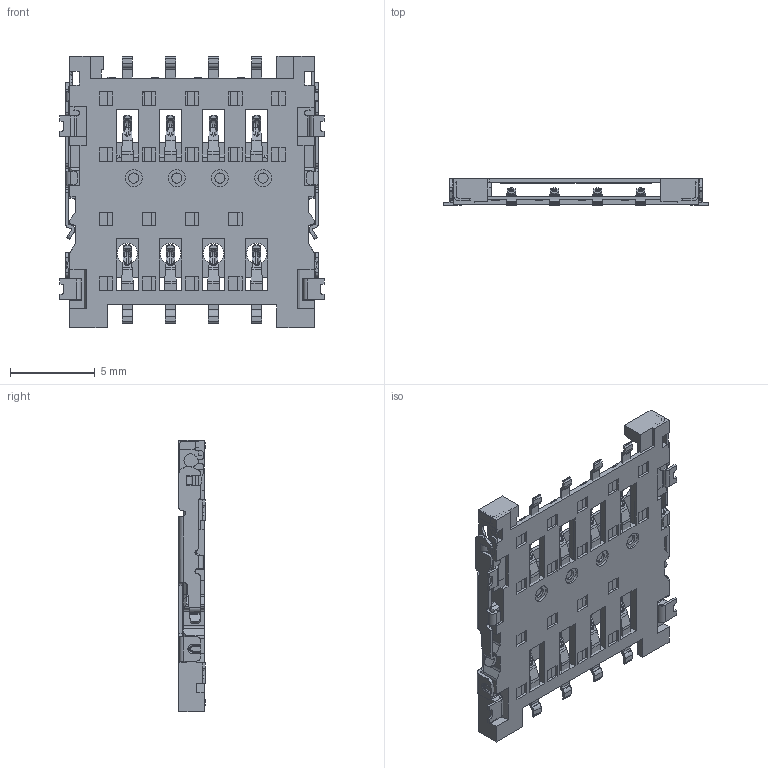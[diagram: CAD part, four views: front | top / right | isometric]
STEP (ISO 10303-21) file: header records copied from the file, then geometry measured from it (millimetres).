
FILE_DESCRIPTION((''),'2;1');
FILE_NAME('MICRO-SIM_1050821AR002_ASM','2018-09-01T',('Administrator'),(''),'PRO/ENGINEER BY PARAMETRIC TECHNOLOGY CORPORATION, 2010280','PRO/ENGINEER BY PARAMETRIC TECHNOLOGY CORPORATION, 2010280','');
FILE_SCHEMA(('CONFIG_CONTROL_DESIGN'));
Products named in the file (22): P8; P2; MSBR_1_2; MSBR_1_2_1; LAYER_2_1_ASM; MSBR-608460; LAYER_1_ASM; MSBR-597430; LAYER_ASM; _X2_63A55730811A_X0__1_ASM; P1; P3; P6; P4; P7; P5; TERMINAL_ASM; HOUSING_1_1; MOLDING_ASM; SHELL-NEW_1_1_1; ASS_ASM; MICRO-SIM_1050821AR002_ASM
Assembly tree (21 placements, depth 7):
  MICRO-SIM_1050821AR002_ASM
    ASS_ASM
      MOLDING_ASM
        TERMINAL_ASM
          P8
          P2
          _X2_63A55730811A_X0__1_ASM
            LAYER_2_1_ASM
              MSBR_1_2
              MSBR_1_2_1
            LAYER_1_ASM
              MSBR-608460
            LAYER_ASM
              MSBR-597430
          P1
          P3
          P6
          P4
          P7
          P5
        HOUSING_1_1
      SHELL-NEW_1_1_1
Bounding box: 15.6 x 1.55 x 16 mm (x, y, z)
Volume: 130.6 mm3; surface area: 982.5 mm2
Topology: 14 solids, 14 shells, 2158 faces, 5686 edges, 3614 vertices
Faces by surface type: plane 1224, cylinder 600, torus 130, bspline 114, cone 90
Entity records: 73703 total; most frequent: CARTESIAN_POINT 19457, ORIENTED_EDGE 11372, DIRECTION 11128, EDGE_CURVE 5686, VECTOR 3986, LINE 3986, VERTEX_POINT 3614, AXIS2_PLACEMENT_3D 3571
